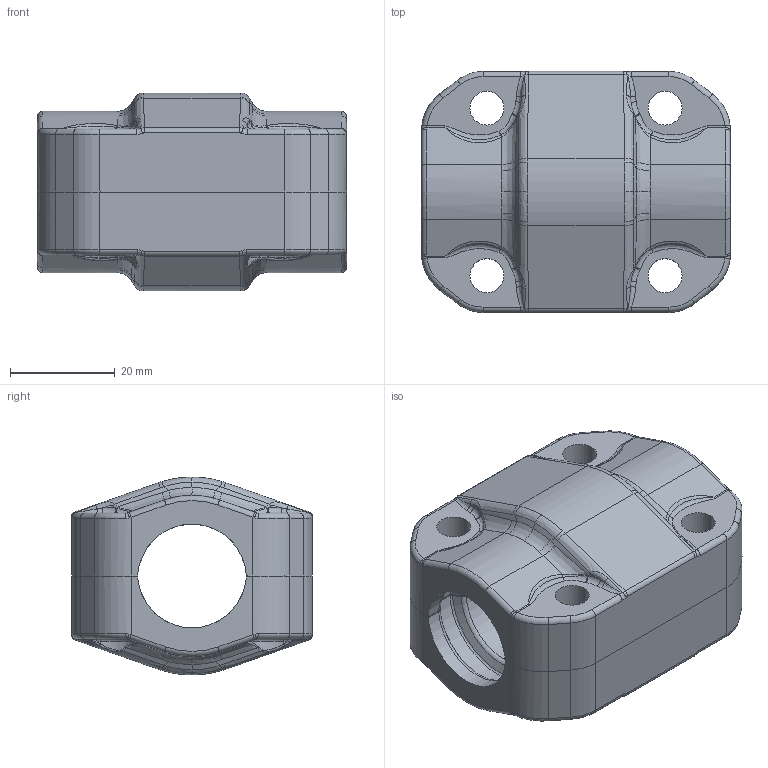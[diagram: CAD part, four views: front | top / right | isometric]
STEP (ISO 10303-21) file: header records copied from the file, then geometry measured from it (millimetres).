
FILE_DESCRIPTION(/* description */ (''),/* implementation_level */ '2;1');
FILE_NAME(/* name */ '1002.stp',/* time_stamp */ '2025-06-20T11:14:57+08:00',/* author */ (''),/* organization */ (''),/* preprocessor_version */ 'ST-DEVELOPER v14',/* originating_system */ 'SIEMENS PLM Software NX 8.0',/* authorisation */ '');
FILE_SCHEMA (('AP203_CONFIGURATION_CONTROLLED_3D_DESIGN_OF_MECHANICAL_PARTS_AND_ASSEMBLIES_MIM_LF { 1 0 10303 403 2 1 2}'));
Length unit declared in the file: millimetre
Products named in the file (1): Admi16E4AC834wyv
Bounding box: 59 x 46 x 37.8 mm (x, y, z)
Volume: 40627.8 mm3; surface area: 18856.2 mm2
Topology: 2 solids, 2 shells, 618 faces, 1486 edges, 876 vertices
Faces by surface type: bspline 268, cylinder 142, plane 90, torus 60, cone 28, extrusion 28, sphere 2
Entity records: 32192 total; most frequent: CARTESIAN_POINT 19658, ORIENTED_EDGE 2972, DIRECTION 2098, EDGE_CURVE 1486, VERTEX_POINT 876, AXIS2_PLACEMENT_3D 842, EDGE_LOOP 638, ADVANCED_FACE 618
